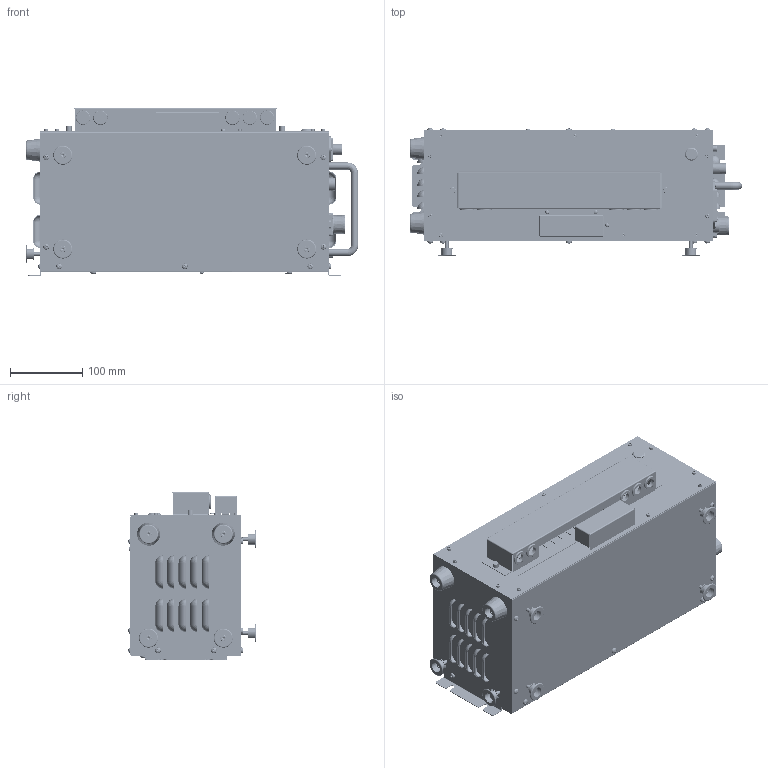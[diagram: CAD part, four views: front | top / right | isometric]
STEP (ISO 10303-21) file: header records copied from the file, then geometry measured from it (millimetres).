
FILE_DESCRIPTION(/* description */ (''),/* implementation_level */ '2;1');
FILE_NAME(/* name */ 'CB07 .stp',/* time_stamp */ '2024-01-19T14:45:33+09:00',/* author */ ('TK AHN'),/* organization */ (''),/* preprocessor_version */ 'ST-DEVELOPER v19.2',/* originating_system */ 'Autodesk Inventor 2023',/* authorisation */ '');
FILE_SCHEMA (('AUTOMOTIVE_DESIGN { 1 0 10303 214 3 1 1 }'));
Products named in the file (1): CB07_제어반 단품_V1.0(외부)
Bounding box: 460 x 176.56 x 232 mm (x, y, z)
Volume: 12117656.5 mm3; surface area: 791500.1 mm2
Topology: 88 solids, 90 shells, 4560 faces, 12407 edges, 8299 vertices
Faces by surface type: plane 2259, cylinder 1027, cone 644, torus 332, bspline 178, sphere 120
Full cylindrical faces by diameter (mm): 1.5 x10, 1.6 x4, 1.7 x20, 1.8 x1, 2 x18, 2.2 x10, 2.459 x21, 2.5 x14, 2.6 x11, 2.693 x15, 2.8 x2, 2.9 x2, 3 x33, 3.1 x10, 3.3 x2, 3.4 x7, 3.5 x5, 3.571 x21, 3.6 x11, 4 x23, 4.134 x8, 4.5 x2, 5 x31, 5.3 x3, 5.5 x16, 5.6 x4, 5.9 x1, 6 x3, 6.4 x3, 7.5 x1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
Entity records: 177463 total; most frequent: CARTESIAN_POINT 57849, ORIENTED_EDGE 24628, DIRECTION 23378, EDGE_CURVE 12315, AXIS2_PLACEMENT_3D 8456, VERTEX_POINT 8298, LINE 6466, VECTOR 6466
